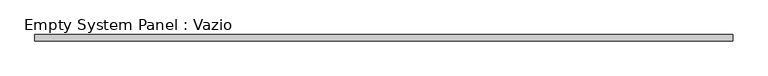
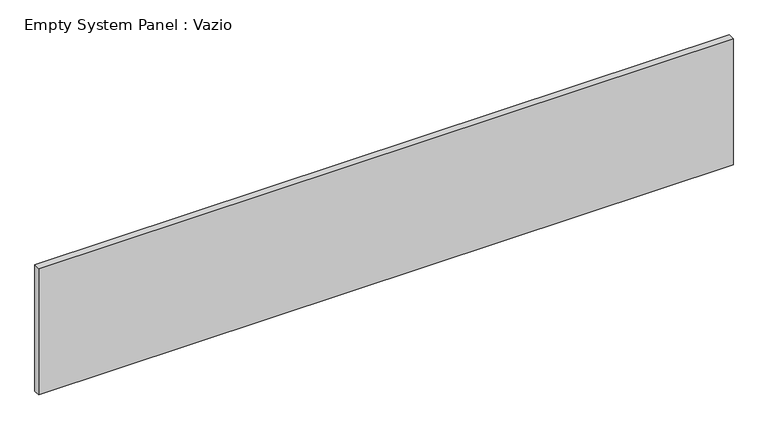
"""IFC4 building model written with IfcOpenShell, lengths in millimetres: plate geometry, Empty System Panel : Vazio."""

import ifcopenshell
import ifcopenshell.guid

model = None  # the IFC model being written
_history = None  # IfcOwnerHistory: only IFC2X3 demands one
_inside = {}  # id of a spatial element -> (the spatial element, [elements in it])
_under = {}  # id of a project, library or spatial element -> (it, [spatial elements below it])
_declared = {}  # id of a project -> (the project, [libraries it declares])
_typed = {}  # id of a type object -> (the type object, [elements of that type])
_made_of = {}  # id of a material, layer set ... -> (it, [elements and type objects made of it])


def new_model(schema):
    """Start an empty IFC model of exactly this schema.

    Asked for "IFC4X3", IfcOpenShell would pick the latest addendum, in which some entities
    have other attributes; the version numbers below select the first issue.
    IFC2X3 requires an IfcOwnerHistory on every rooted entity: one is made here for all.
    """
    global model, _history
    if schema == "IFC4X3":
        model = ifcopenshell.file(schema_version=(4, 3, 0, 0))
    else:
        model = ifcopenshell.file(schema=schema)
    _inside.clear()
    _under.clear()
    _declared.clear()
    _typed.clear()
    _made_of.clear()
    _history = None
    if model.schema == "IFC2X3":
        org = make("IfcOrganization", Name="unknown")
        user = make(
            "IfcPersonAndOrganization",
            ThePerson=make("IfcPerson", FamilyName="unknown"),
            TheOrganization=org,
        )
        app = make(
            "IfcApplication",
            ApplicationDeveloper=org,
            Version="unknown",
            ApplicationFullName="unknown",
            ApplicationIdentifier="unknown",
        )
        _history = make(
            "IfcOwnerHistory",
            OwningUser=user,
            OwningApplication=app,
            ChangeAction="ADDED",
            CreationDate=0,
        )
    return model


def make(cls, **values):
    """One entity of the class cls with the attributes given. An attribute that is None is left unset."""
    return model.create_entity(
        cls, **{name: value for name, value in values.items() if value is not None}
    )


def rooted(cls, **values):
    """An entity with a GlobalId (a new one), such as an element, a storey or a relation."""
    return make(cls, GlobalId=ifcopenshell.guid.new(), OwnerHistory=_history, **values)


def si_unit(unit_type, name, prefix=None):
    """IfcSIUnit, for example si_unit("LENGTHUNIT", "METRE", prefix="MILLI")."""
    return make("IfcSIUnit", UnitType=unit_type, Prefix=prefix, Name=name)


def assignment(units):
    """IfcUnitAssignment: the units of a project."""
    return None if units is None else make("IfcUnitAssignment", Units=units)


def point(xyz):
    """IfcCartesianPoint."""
    return None if xyz is None else make("IfcCartesianPoint", Coordinates=xyz)


def direction(xyz):
    """IfcDirection."""
    return None if xyz is None else make("IfcDirection", DirectionRatios=xyz)


def frame(location, z_axis=None, x_axis=None):
    """IfcAxis2Placement3D, a coordinate frame: its origin and axes. An axis left out is left unset."""
    return make(
        "IfcAxis2Placement3D",
        Location=point(location),
        Axis=direction(z_axis),
        RefDirection=direction(x_axis),
    )


def origin():
    """The frame at (0, 0, 0) with its axes left unset."""
    return frame((0.0, 0.0, 0.0))


def origin_with_axes():
    """The frame at (0, 0, 0) with the z axis (0, 0, 1) and the x axis (1, 0, 0) written out."""
    return frame((0.0, 0.0, 0.0), z_axis=(0.0, 0.0, 1.0), x_axis=(1.0, 0.0, 0.0))


def place(relative_to, where):
    """IfcLocalPlacement: puts the frame where relative to a parent placement (None: the world)."""
    return make(
        "IfcLocalPlacement", PlacementRelTo=relative_to, RelativePlacement=where
    )


def context(
    kind, dimensions, precision=None, world=None, true_north=None, identifier=None
):
    """IfcGeometricRepresentationContext, for example the 3D "Model" context."""
    return make(
        "IfcGeometricRepresentationContext",
        ContextIdentifier=identifier,
        ContextType=kind,
        CoordinateSpaceDimension=dimensions,
        Precision=precision,
        WorldCoordinateSystem=world,
        TrueNorth=true_north,
    )


def project(units=None, contexts=None):
    """IfcProject with its units and contexts."""
    return rooted(
        "IfcProject",
        Name="project",
        RepresentationContexts=contexts,
        UnitsInContext=assignment(units),
    )


def spatial(cls, under=None, at=None, **own):
    """A site, building, storey or space (cls), placed at a placement, below another one or the project."""
    s = rooted(cls, ObjectPlacement=at, **own)
    if under is not None:
        _under.setdefault(under.id(), (under, []))[1].append(s)
    return s


def polyline(points):
    """IfcPolyline through the points."""
    return make("IfcPolyline", Points=[point(p) for p in points])


def outline(outer, holes=None, kind="AREA"):
    """IfcArbitraryClosedProfileDef: a profile drawn as a closed curve; with holes, ...WithVoids."""
    if holes is None:
        return make("IfcArbitraryClosedProfileDef", ProfileType=kind, OuterCurve=outer)
    return make(
        "IfcArbitraryProfileDefWithVoids",
        ProfileType=kind,
        OuterCurve=outer,
        InnerCurves=holes,
    )


def extrude(swept, where, along, depth):
    """IfcExtrudedAreaSolid: the profile swept, set in the frame where, extruded along a direction by depth."""
    return make(
        "IfcExtrudedAreaSolid",
        SweptArea=swept,
        Position=where,
        ExtrudedDirection=direction(along),
        Depth=depth,
    )


def shape(context_of_items, identifier, shape_type, items):
    """IfcShapeRepresentation: the items that make up one representation, for example the "Body"."""
    return make(
        "IfcShapeRepresentation",
        ContextOfItems=context_of_items,
        RepresentationIdentifier=identifier,
        RepresentationType=shape_type,
        Items=items,
    )


def source(mapping_origin, context_of_items, identifier, shape_type, items):
    """IfcRepresentationMap: a shape defined once, which mapped items show again and again."""
    return make(
        "IfcRepresentationMap",
        MappingOrigin=mapping_origin,
        MappedRepresentation=shape(context_of_items, identifier, shape_type, items),
    )


def transform(
    local_origin,
    x_axis=None,
    y_axis=None,
    z_axis=None,
    scale=None,
    scale2=None,
    scale3=None,
    uniform=True,
):
    """IfcCartesianTransformationOperator3D, or its non-uniform kind. x_axis, y_axis, z_axis: its Axis1, 2, 3."""
    if uniform:
        return make(
            "IfcCartesianTransformationOperator3D",
            Axis1=direction(x_axis),
            Axis2=direction(y_axis),
            LocalOrigin=point(local_origin),
            Scale=scale,
            Axis3=direction(z_axis),
        )
    return make(
        "IfcCartesianTransformationOperator3DnonUniform",
        Axis1=direction(x_axis),
        Axis2=direction(y_axis),
        LocalOrigin=point(local_origin),
        Scale=scale,
        Axis3=direction(z_axis),
        Scale2=scale2,
        Scale3=scale3,
    )


def mapped(mapping_source, mapping_target):
    """IfcMappedItem: shows the shape of a source again, moved by a transform."""
    return make(
        "IfcMappedItem", MappingSource=mapping_source, MappingTarget=mapping_target
    )


def made_of(thing, what):
    """Note that an element or type object is made of a material, layer set ...; save() writes the relation."""
    if what is not None:
        _made_of.setdefault(what.id(), (what, []))[1].append(thing)
    return thing


def element(
    cls,
    number,
    at=None,
    inside=None,
    cuts=None,
    type_object=None,
    material=None,
    context=None,
    identifier="Body",
    shape_type=None,
    held_by="IfcProductDefinitionShape",
    body=None,
    shapes=None,
    **own,
):
    """One element of the class cls, such as IfcWall. Its Tag is "e" and its number.

    at: its placement. inside: the storey or other place that contains it. cuts: it is an
    opening in that element (IfcRelVoidsElement). A single representation is given by context,
    identifier, shape_type and body (its items); several are given by shapes. held_by: the class
    of the entity that holds the representations. save() writes the other relations.
    """
    e = rooted(cls, Tag="e%d" % number, ObjectPlacement=at, **own)
    if body is not None:
        shapes = [shape(context, identifier, shape_type, body)]
    if shapes is not None:
        e.Representation = make(held_by, Representations=shapes)
    if inside is not None:
        _inside.setdefault(inside.id(), (inside, []))[1].append(e)
    if cuts is not None:
        rooted(
            "IfcRelVoidsElement", RelatingBuildingElement=cuts, RelatedOpeningElement=e
        )
    if type_object is not None:
        _typed.setdefault(type_object.id(), (type_object, []))[1].append(e)
    return made_of(e, material)


def aggregate(whole, parts):
    """IfcRelAggregates: a whole, such as a stair, and the parts it consists of."""
    return rooted("IfcRelAggregates", RelatingObject=whole, RelatedObjects=parts)


def save(model, path):
    """Write the relations noted so far, then the file.

    IfcRelAggregates (storeys below a building ...), IfcRelContainedInSpatialStructure (elements
    in a storey), IfcRelDefinesByType, IfcRelAssociatesMaterial and IfcRelDeclares: one each for
    every whole, place, type object, material and project.
    """
    for whole, parts in _under.values():
        aggregate(whole, parts)
    for where, things in _inside.values():
        rooted(
            "IfcRelContainedInSpatialStructure",
            RelatedElements=things,
            RelatingStructure=where,
        )
    for kind, things in _typed.values():
        rooted("IfcRelDefinesByType", RelatedObjects=things, RelatingType=kind)
    for what, things in _made_of.values():
        rooted("IfcRelAssociatesMaterial", RelatedObjects=things, RelatingMaterial=what)
    for by, libraries in _declared.values():
        rooted("IfcRelDeclares", RelatingContext=by, RelatedDefinitions=libraries)
    model.write(path)


def empty_system_panel_vazio_d975564d(model_context):
    return source(origin(), model_context, "Body", "SweptSolid", [
        extrude(outline(polyline([(5330.0690497, 50.0), (-5330.0690497, 50.0), (-5330.0690497, 150.0), (5330.0690497, 150.0), (5330.0690497, 50.0)])), origin_with_axes(), (0.0, 0.0, 1.0), 2048.5857362),
    ])


if __name__ == "__main__":
    model = new_model("IFC4")
    model_context = context("Model", 3, world=origin())
    ifc_project = project(units=[si_unit("LENGTHUNIT", "METRE", prefix="MILLI")], contexts=[model_context])
    site = spatial("IfcSite", under=ifc_project)
    building = spatial("IfcBuilding", under=site)
    placement = place(None, origin())
    empty_system_panel_vazio_shape = empty_system_panel_vazio_d975564d(model_context)
    element("IfcPlate", 1, ObjectType="Empty System Panel : Vazio", at=placement, inside=building, context=model_context, shape_type="MappedRepresentation", body=[
        mapped(empty_system_panel_vazio_shape, transform((0.0, 0.0, 0.0), x_axis=(1.0, 0.0, 0.0), y_axis=(0.0, 1.0, 0.0), z_axis=(0.0, 0.0, 1.0))),
    ])
    save(model, "model.ifc")
